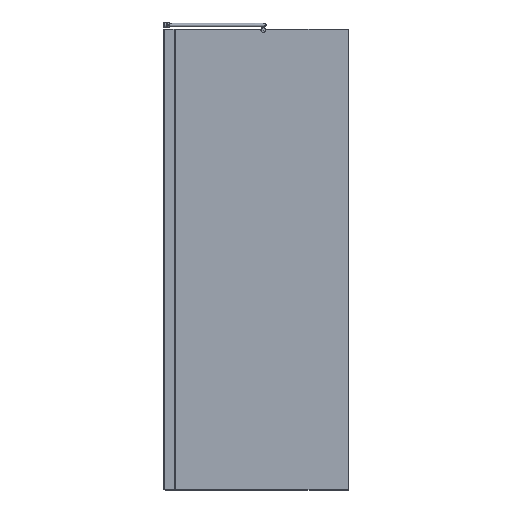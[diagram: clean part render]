
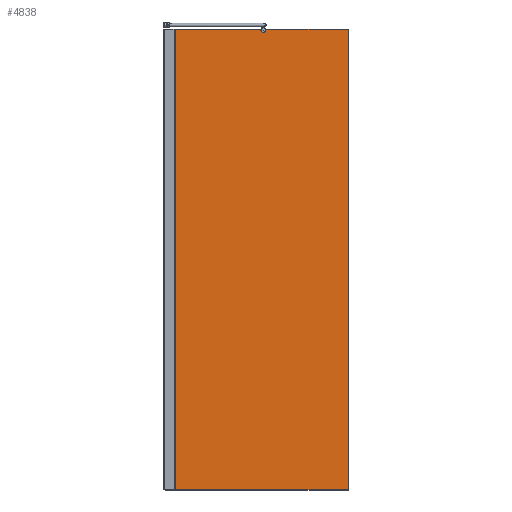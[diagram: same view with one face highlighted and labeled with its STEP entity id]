
A CAD part, left-side view. The second image highlights one B-rep face of the part: STEP entity #4838.
In plain terms, the highlighted planar face has unit normal (-1, 0, 0) as drawn and (0, 1, 0) by its records, which use the part's own axes.
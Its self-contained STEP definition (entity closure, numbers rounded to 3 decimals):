
#319=LINE($,#7206,#737);
#320=LINE($,#7208,#738);
#321=LINE($,#7210,#739);
#322=LINE($,#7211,#740);
#737=VECTOR($,#5730,793.);
#738=VECTOR($,#5731,2000.);
#739=VECTOR($,#5732,793.);
#740=VECTOR($,#5733,2000.);
#1152=PLANE($,#5178);
#1342=FACE_BOUND($,#1747,.T.);
#1343=FACE_BOUND($,#1748,.T.);
#1344=FACE_BOUND($,#1749,.T.);
#1747=EDGE_LOOP($,(#3479));
#1748=EDGE_LOOP($,(#3480,#3481,#3482,#3483));
#1749=EDGE_LOOP($,(#3484));
#2140=CIRCLE($,#5177,8.);
#2141=CIRCLE($,#5179,8.);
#2327=VERTEX_POINT($,#7199);
#2328=VERTEX_POINT($,#7202);
#2329=VERTEX_POINT($,#7204);
#2330=VERTEX_POINT($,#7205);
#2331=VERTEX_POINT($,#7207);
#2332=VERTEX_POINT($,#7209);
#2804=EDGE_CURVE($,#2327,#2327,#2140,.T.);
#2805=EDGE_CURVE($,#2328,#2328,#2141,.T.);
#2806=EDGE_CURVE($,#2329,#2330,#319,.T.);
#2807=EDGE_CURVE($,#2330,#2331,#320,.T.);
#2808=EDGE_CURVE($,#2332,#2331,#321,.T.);
#2809=EDGE_CURVE($,#2329,#2332,#322,.T.);
#3479=ORIENTED_EDGE($,*,*,#2805,.F.);
#3480=ORIENTED_EDGE($,*,*,#2806,.T.);
#3481=ORIENTED_EDGE($,*,*,#2807,.T.);
#3482=ORIENTED_EDGE($,*,*,#2808,.F.);
#3483=ORIENTED_EDGE($,*,*,#2809,.F.);
#3484=ORIENTED_EDGE($,*,*,#2804,.F.);
#4838=ADVANCED_FACE($,(#1342,#1343,#1344),#1152,.T.);
#5177=AXIS2_PLACEMENT_3D($,#7200,#5724,#5725);
#5178=AXIS2_PLACEMENT_3D($,#7201,#5726,#5727);
#5179=AXIS2_PLACEMENT_3D($,#7203,#5728,#5729);
#5724=DIRECTION('center_axis',(0.,1.,0.));
#5725=DIRECTION('ref_axis',(-1.,0.,0.));
#5726=DIRECTION('center_axis',(0.,1.,0.));
#5727=DIRECTION('ref_axis',(-1.,0.,0.));
#5728=DIRECTION('center_axis',(0.,1.,0.));
#5729=DIRECTION('ref_axis',(-1.,0.,0.));
#5730=DIRECTION($,(-1.,0.,0.));
#5731=DIRECTION($,(0.,0.,1.));
#5732=DIRECTION($,(-1.,0.,0.));
#5733=DIRECTION($,(0.,0.,1.));
#7199=CARTESIAN_POINT('',(30.,8.,1660.));
#7200=CARTESIAN_POINT('Origin',(22.,8.,1660.));
#7201=CARTESIAN_POINT('Origin',(793.,8.,0.));
#7202=CARTESIAN_POINT('',(30.,8.,340.));
#7203=CARTESIAN_POINT('Origin',(22.,8.,340.));
#7204=CARTESIAN_POINT('',(793.,8.,0.));
#7205=CARTESIAN_POINT('',(0.,8.,0.));
#7206=CARTESIAN_POINT($,(793.,8.,0.));
#7207=CARTESIAN_POINT('',(0.,8.,2000.));
#7208=CARTESIAN_POINT($,(0.,8.,0.));
#7209=CARTESIAN_POINT('',(793.,8.,2000.));
#7210=CARTESIAN_POINT($,(793.,8.,2000.));
#7211=CARTESIAN_POINT($,(793.,8.,0.));
